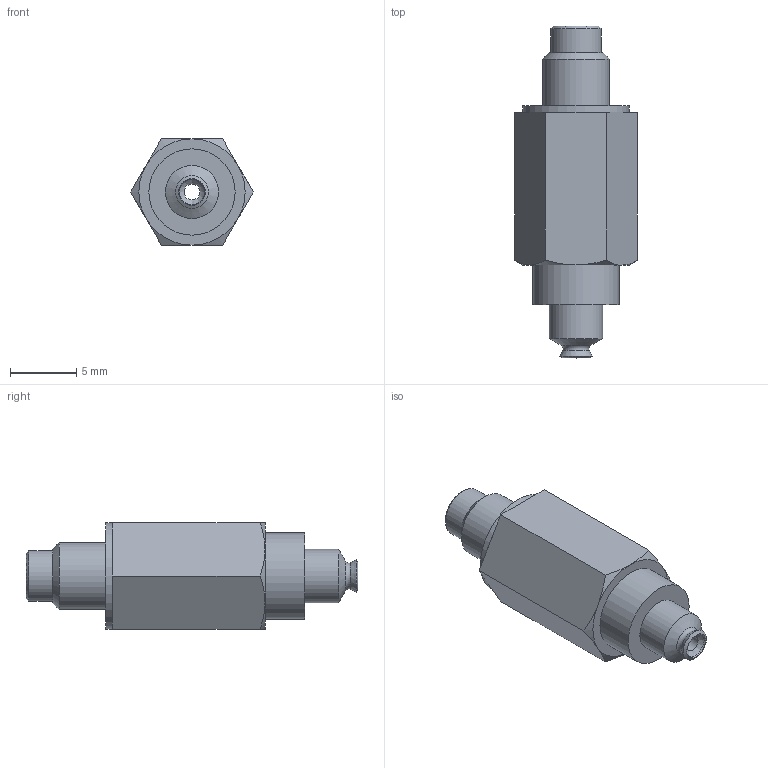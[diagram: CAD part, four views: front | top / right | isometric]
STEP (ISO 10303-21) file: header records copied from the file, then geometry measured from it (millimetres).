
FILE_DESCRIPTION(('STEP AP203'),'1');
FILE_NAME('.stp','2025-04-07T02:19:27',(' '),(' '),'Spatial InterOp 3D',' ',' ');
FILE_SCHEMA(('CONFIG_CONTROL_DESIGN'));
Length unit declared in the file: millimetre
Products named in the file (4): BPSS-S3-BPFG-2A-※; PSS-S3-PFG-1.5A M body; PSS-S3-PFG-1.5A F body; BPFG-2A-※
Assembly tree (3 placements, depth 2):
  BPSS-S3-BPFG-2A-※
    PSS-S3-PFG-1.5A M body
    PSS-S3-PFG-1.5A F body
    BPFG-2A-※
Bounding box: 9.24 x 25 x 8 mm (x, y, z)
Volume: 726.7 mm3; surface area: 1248.3 mm2
Topology: 3 solids, 3 shells, 62 faces, 119 edges, 71 vertices
Faces by surface type: plane 26, cylinder 15, cone 12, torus 8, bspline 1
Full cylindrical faces by diameter (mm): 1.2 x2, 2 x2, 2.5 x2, 3 x2, 3.5 x1, 3.8 x1, 4 x1, 5 x1, 6.5 x2, 8 x1
Entity records: 1607 total; most frequent: CARTESIAN_POINT 269, DIRECTION 258, ORIENTED_EDGE 170, AXIS2_PLACEMENT_3D 120, EDGE_LOOP 106, FACE_OUTER_BOUND 86, EDGE_CURVE 85, VERTEX_POINT 67
